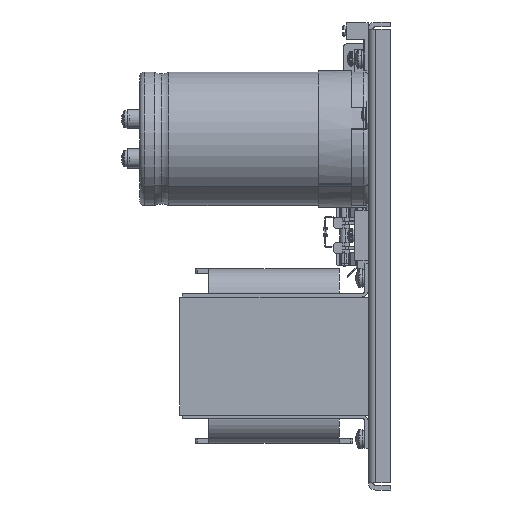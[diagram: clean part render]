
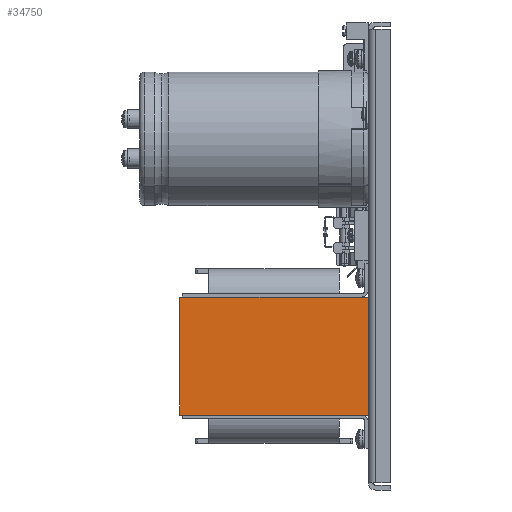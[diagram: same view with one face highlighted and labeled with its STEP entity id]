
A CAD part, left-side view. The second image highlights one B-rep face of the part: STEP entity #34750.
In plain terms, the highlighted planar face has unit normal (-1, 0, 0).
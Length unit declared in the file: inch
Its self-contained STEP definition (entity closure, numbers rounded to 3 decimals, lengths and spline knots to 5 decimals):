
#24510=DIRECTION('',(0.,1.,0.));
#24511=VECTOR('',#24510,4.228);
#24512=CARTESIAN_POINT('',(-5.371,0.,-3.569));
#24513=LINE('',#24512,#24511);
#24580=DIRECTION('',(0.,1.,0.));
#24581=VECTOR('',#24580,4.228);
#24582=CARTESIAN_POINT('',(-5.371,0.,-0.922));
#24583=LINE('',#24582,#24581);
#24587=DIRECTION('',(0.,0.,1.));
#24588=VECTOR('',#24587,2.647);
#24589=CARTESIAN_POINT('',(-5.371,0.,-3.569));
#24590=LINE('',#24589,#24588);
#24601=DIRECTION('',(0.,0.,1.));
#24602=VECTOR('',#24601,2.647);
#24603=CARTESIAN_POINT('',(-5.371,4.228,-3.569));
#24604=LINE('',#24603,#24602);
#32573=CARTESIAN_POINT('',(-5.371,0.,-3.569));
#32574=CARTESIAN_POINT('',(-5.371,4.228,-3.569));
#32575=VERTEX_POINT('',#32573);
#32576=VERTEX_POINT('',#32574);
#33143=CARTESIAN_POINT('',(-5.371,0.,-0.922));
#33144=VERTEX_POINT('',#33143);
#33185=CARTESIAN_POINT('',(-5.371,4.228,-0.922));
#33186=VERTEX_POINT('',#33185);
#34737=CARTESIAN_POINT('',(-5.371,0.,-0.922));
#34738=DIRECTION('',(1.,0.,0.));
#34739=DIRECTION('',(0.,0.,-1.));
#34740=AXIS2_PLACEMENT_3D('',#34737,#34738,#34739);
#34741=PLANE('',#34740);
#34742=ORIENTED_EDGE('',*,*,#34654,.T.);
#34744=ORIENTED_EDGE('',*,*,#34743,.T.);
#34746=ORIENTED_EDGE('',*,*,#34745,.F.);
#34747=ORIENTED_EDGE('',*,*,#34722,.F.);
#34748=EDGE_LOOP('',(#34742,#34744,#34746,#34747));
#34749=FACE_OUTER_BOUND('',#34748,.F.);
#34654=EDGE_CURVE('',#32575,#32576,#24513,.T.);
#34722=EDGE_CURVE('',#32575,#33144,#24590,.T.);
#34743=EDGE_CURVE('',#32576,#33186,#24604,.T.);
#34745=EDGE_CURVE('',#33144,#33186,#24583,.T.);
#34750=ADVANCED_FACE('',(#34749),#34741,.F.);
